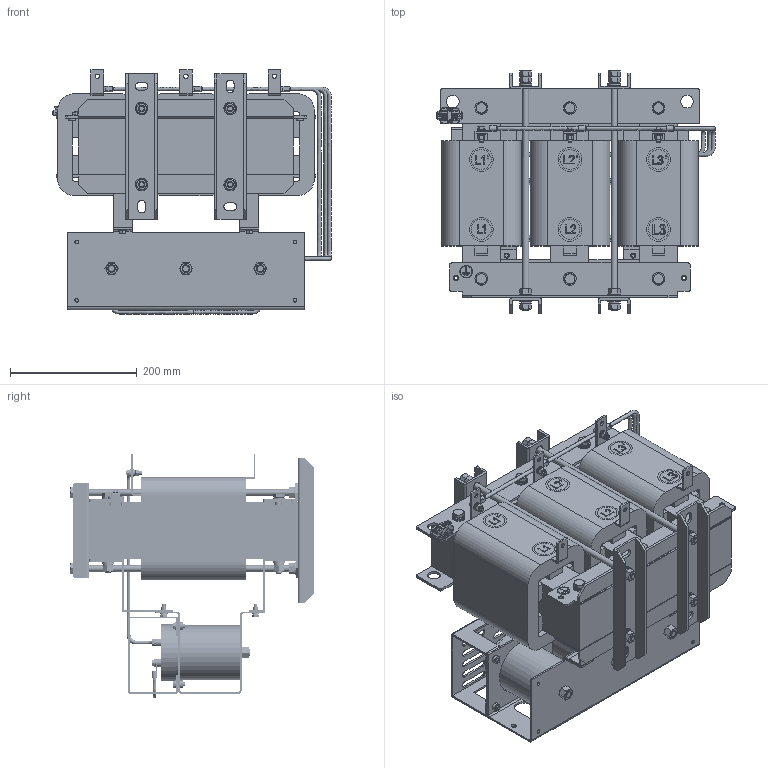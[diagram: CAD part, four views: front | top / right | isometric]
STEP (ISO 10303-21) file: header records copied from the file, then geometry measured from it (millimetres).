
FILE_DESCRIPTION(('STEP AP203'), '1');
FILE_NAME('蔓躅漤铋 耔眢耥 翳朦蝠 _ ISINOF-55_75-6', '', ('UNSPECIFIED'), ('UNSPECIFIED'), 'C3D Converter', 'C3D Toolkit', '');
FILE_SCHEMA(('CONFIG_CONTROL_DESIGN'));
Length unit declared in the file: millimetre
Products named in the file (42): ISINOF-55/75-6; 吒X2\0425\X0\86-125; UРН琵X2\042704050415\X0\ 60x30x4; UРНС№Мх 50x25x4; 琵X2\04370418042D0458042C\X0\ ; А降еМх340-60-1; ЖЅ豹X2\043504560415\X0\豹X2\0435\X0\10x30x166; ИэПаМъРѕ340-330-88; ЙПјРјю400-55-4ЈЁ60-140; ПЯИ¦75A; ПВјРјю340-55-4(60-140; ДЪДёЕЕ20x3; НвДёЕЕ20x3; plain washers--product grade c gb_GB_FASTENER_WASHER_SMWC 10; spring lock washers--normal type gb_GB_FASTENER_WASHER_SW 10; hexagon nuts grade c gb_GB_FASTENER_NUT_SNC1 M10-N; M10X380; БщЅЗВЭЛЁM10; LРНЦ吭X2\04560415\X0\; LРНЦ吭X2\04560415\X0\1; ёЗЧУ; RNB14-6S; plain washers--product grade c gb_GB_FASTENER_WASHER_SMWC 6; hexagon head bolts-full thread gb_GB_FASTENER_BOLT_STBAB A M6X12-N; hexagon head bolts-full thread gb_GB_FASTENER_BOLT_STBAB A M6X16-N; spring lock washers--normal type gb_GB_FASTENER_WASHER_SW 6; hexagon nuts grade c gb_GB_FASTENER_NUT_SNC1 M6-N; hexagon head bolts-full thread gb_GB_FASTENER_BOLT_STBAB A M6X20-N; Cable_1-ХэПТІЁВЛІЁЖч SKS-SF-0075-6AЈЇ05; 琵X2\043704100412\X0\^Cable_1-ХэПТІЁВЛІЁЖч SKS-SF-0075-6AЈЇ05; Cable_2-ХэПТІЁВЛІЁЖч SKS-SF-0075-6AЈЇ05; 琵X2\043704100412\X0\^Cable_2-ХэПТІЁВЛІЁЖч SKS-SF-0075-6AЈЇ05; Cable_3-ХэПТІЁВЛІЁЖч SKS-SF-0075-6AЈЇ05; 琵X2\043704100412\X0\^Cable_3-ХэПТІЁВЛІЁЖч SKS-SF-0075-6AЈЇ05; Cable_4-ХэПТІЁВЛІЁЖч SKS-SF-0075-6AЈЇ05; 琵X2\043704100412\X0\^Cable_4-ХэПТІЁВЛІЁЖч SKS-SF-0075-6AЈЇ05; hexagon nuts grade c gb_GB_FASTENER_NUT_SNC1 M12-N; ї琵X2\041E\X0\做зЧУKV223-2P; L1 L2 L3МщЦЅ; L1ЎЇ L2Ўｮ L3ЎЇМщЦЅ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
Assembly tree (204 placements, depth 3):
  ISINOF-55/75-6
    吒X2\0425\X0\86-125  x3
    UРН琵X2\042704050415\X0\ 60x30x4  x2
    UРНС№Мх 50x25x4  x2
    琵X2\04370418042D0458042C\X0\ 
    А降еМх340-60-1  x6
    ЖЅ豹X2\043504560415\X0\豹X2\0435\X0\10x30x166  x18
    ИэПаМъРѕ340-330-88
    ЙПјРјю400-55-4ЈЁ60-140  x2
    ПЯИ¦75A  x3
    ПВјРјю340-55-4(60-140
    ДЪДёЕЕ20x3  x3
    НвДёЕЕ20x3  x3
    plain washers--product grade c gb_GB_FASTENER_WASHER_SMWC 10  x40
    spring lock washers--normal type gb_GB_FASTENER_WASHER_SW 10  x14
    hexagon nuts grade c gb_GB_FASTENER_NUT_SNC1 M10-N  x22
    M10X380  x4
    БщЅЗВЭЛЁM10  x6
    LРНЦ吭X2\04560415\X0\  x2
    LРНЦ吭X2\04560415\X0\1  x2
    ёЗЧУ
    RNB14-6S  x9
    plain washers--product grade c gb_GB_FASTENER_WASHER_SMWC 6  x20
    hexagon head bolts-full thread gb_GB_FASTENER_BOLT_STBAB A M6X12-N  x2
    hexagon head bolts-full thread gb_GB_FASTENER_BOLT_STBAB A M6X16-N  x12
    spring lock washers--normal type gb_GB_FASTENER_WASHER_SW 6  x3
    hexagon nuts grade c gb_GB_FASTENER_NUT_SNC1 M6-N  x3
    hexagon head bolts-full thread gb_GB_FASTENER_BOLT_STBAB A M6X20-N  x3
    Cable_1-ХэПТІЁВЛІЁЖч SKS-SF-0075-6AЈЇ05
      琵X2\043704100412\X0\^Cable_1-ХэПТІЁВЛІЁЖч SKS-SF-0075-6AЈЇ05
    Cable_2-ХэПТІЁВЛІЁЖч SKS-SF-0075-6AЈЇ05
      琵X2\043704100412\X0\^Cable_2-ХэПТІЁВЛІЁЖч SKS-SF-0075-6AЈЇ05
    Cable_3-ХэПТІЁВЛІЁЖч SKS-SF-0075-6AЈЇ05
      琵X2\043704100412\X0\^Cable_3-ХэПТІЁВЛІЁЖч SKS-SF-0075-6AЈЇ05
    Cable_4-ХэПТІЁВЛІЁЖч SKS-SF-0075-6AЈЇ05
      琵X2\043704100412\X0\^Cable_4-ХэПТІЁВЛІЁЖч SKS-SF-0075-6AЈЇ05
    hexagon nuts grade c gb_GB_FASTENER_NUT_SNC1 M12-N  x3
    ї琵X2\041E\X0\做зЧУKV223-2P
    L1 L2 L3МщЦЅ
    L1ЎЇ L2Ўｮ L3ЎЇМщЦЅ
    琵X2\0428\X0\崤X2\043A\X0\
    ПВјРјю340-55-4(60-140 ЅУ琵X2\0428\X0\
Bounding box: 440.74 x 384.6 x 385.79 mm (x, y, z)
Volume: 16968091.3 mm3; surface area: 2558833.4 mm2
Topology: 224 solids, 224 shells, 2749 faces, 6317 edges, 4118 vertices
Faces by surface type: plane 1764, cylinder 677, cone 275, bspline 27, torus 6
Full cylindrical faces by diameter (mm): 3 x2, 3.8 x2, 4 x4, 4.917 x3, 6 x51, 6.2 x9, 6.4 x9, 6.6 x20, 6.68 x3, 7 x9, 8 x6, 8.376 x22, 9.88 x3, 10 x10, 10.106 x3, 10.9 x14, 11 x42, 12 x27, 12.5 x6, 14 x44, 16.1 x14, 18.2 x1, 19 x1, 20 x45, 31.5 x6, 37.5 x6, 86 x6, 90 x6
Entity records: 62247 total; most frequent: CARTESIAN_POINT 18162, DIRECTION 6058, ORIENTED_EDGE 5630, EDGE_CURVE 2815, AXIS2_PLACEMENT_3D 2119, VERTEX_POINT 1959, LINE 1820, VECTOR 1820
